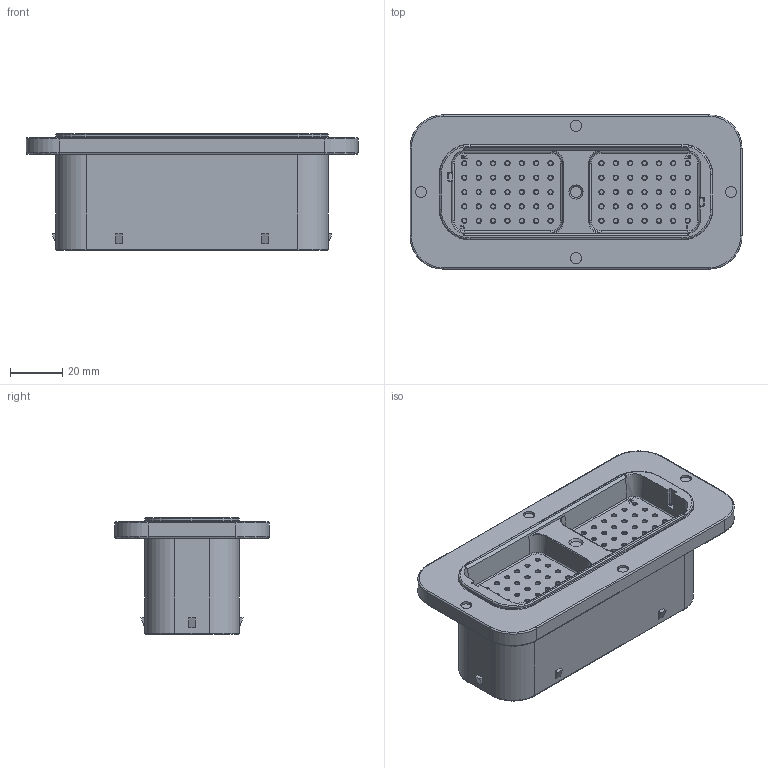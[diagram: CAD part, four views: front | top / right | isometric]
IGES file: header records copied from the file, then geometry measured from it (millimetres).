
Start section:  PTC IGES file: c-drc12-70pb-c-3d.igs
Global section: file name: c-drc12-70pb-c-3d.igs; native system: Creo Parametric by Parametric Technology Corporation; preprocessor: 2013050; author: workeradm; organization: Unknown; units: millimetre
Bounding box: 126.82 x 58.93 x 44.63 mm (x, y, z)
Surface area: 31336.9 mm2 (no closed solid volume)
Topology: 0 solids, 0 shells, 1183 faces, 5060 edges, 5060 vertices
Faces by surface type: revolution 828, bspline 355
